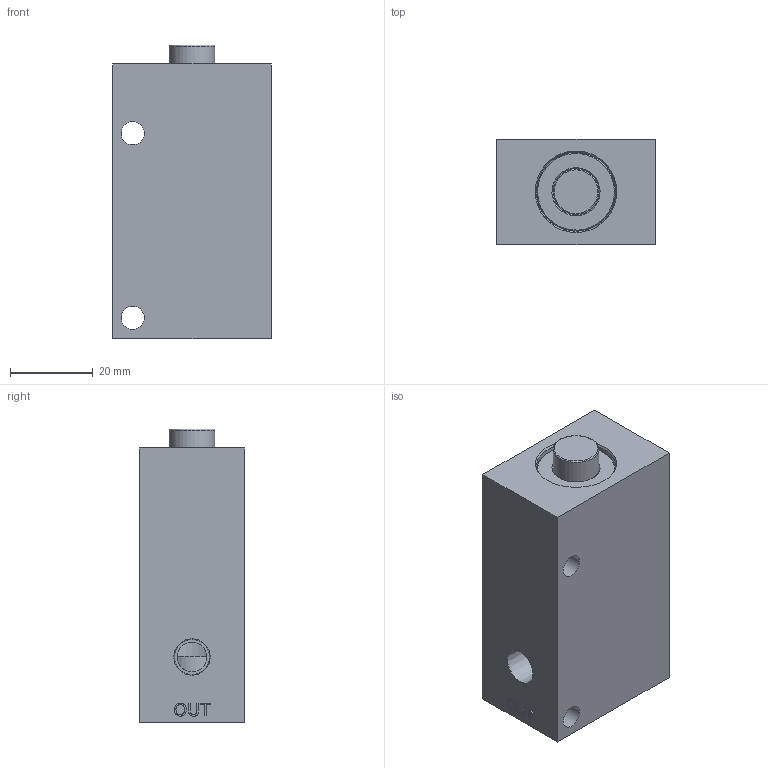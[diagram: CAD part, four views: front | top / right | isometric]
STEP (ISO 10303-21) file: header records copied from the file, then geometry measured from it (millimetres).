
FILE_DESCRIPTION(/* description */ (''),/* implementation_level */ '2;1');
FILE_NAME(/* name */ 'L:\ALADCO\Advertising\3D Content\Valves\Step Files - 2014-11-19 thru Present\40120X.stp',/* time_stamp */ '2014-11-19T15:11:16-06:00',/* author */ ('dmatz'),/* organization */ ('Aladdin Eng. & Manf. Inc.'),/* preprocessor_version */ 'ST-DEVELOPER v15.2',/* originating_system */ 'Autodesk Inventor 2014',/* authorisation */ '0 in^3');
FILE_SCHEMA (('AUTOMOTIVE_DESIGN { 1 0 10303 214 3 1 1 }'));
Length unit declared in the file: inch
Products named in the file (5): 551200NPTF; 311021; 551203; 551202; 501201
Bounding box: 38.1 x 25.4 x 70.79 mm (x, y, z)
Volume: 53160.3 mm3; surface area: 19522.7 mm2
Topology: 4 solids, 4 shells, 182 faces, 418 edges, 274 vertices
Faces by surface type: plane 99, cylinder 27, bspline 26, torus 16, cone 14
Full cylindrical faces by diameter (mm): 1.499 x1, 5.556 x2, 6.629 x1, 7.137 x1, 7.144 x3, 7.938 x1, 11.049 x2, 11.1 x1, 11.176 x1, 11.735 x1, 12.294 x1, 12.7 x1, 13.792 x1, 15.875 x1, 16.51 x2, 17.462 x1, 18.999 x4, 19.05 x2
Entity records: 5305 total; most frequent: CARTESIAN_POINT 1360, DIRECTION 698, ORIENTED_EDGE 678, EDGE_CURVE 339, EDGE_LOOP 286, VERTEX_POINT 255, AXIS2_PLACEMENT_3D 249, LINE 200
